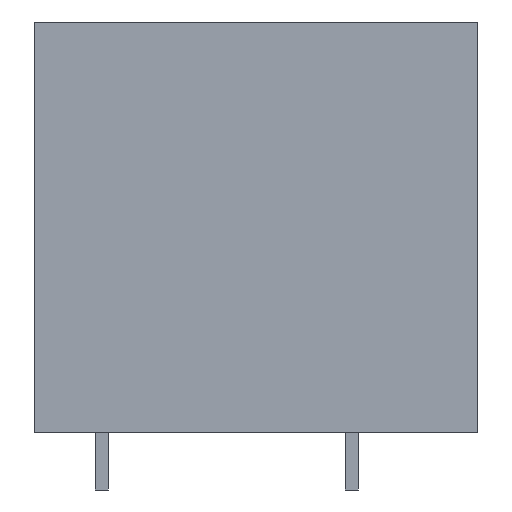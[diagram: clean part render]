
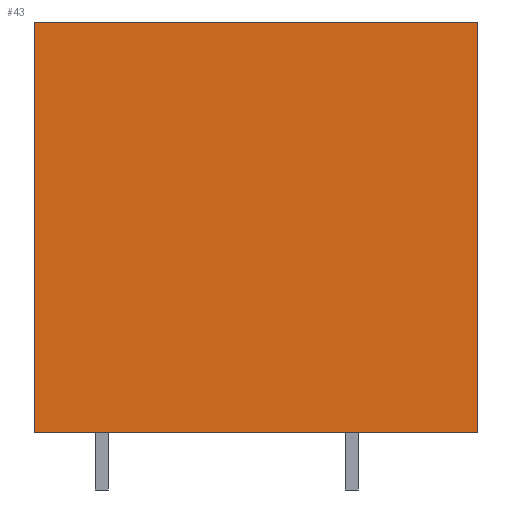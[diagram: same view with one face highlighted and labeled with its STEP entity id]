
A CAD part, left-side view. The second image highlights one B-rep face of the part: STEP entity #43.
In plain terms, the highlighted planar face has unit normal (-1, 0, 0).
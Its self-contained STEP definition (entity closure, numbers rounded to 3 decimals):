
#43 = ADVANCED_FACE('',(#44),#58,.F.);
#44 = FACE_BOUND('',#45,.F.);
#45 = EDGE_LOOP('',(#46,#81,#109,#137));
#46 = ORIENTED_EDGE('',*,*,#47,.F.);
#47 = EDGE_CURVE('',#48,#50,#52,.T.);
#48 = VERTEX_POINT('',#49);
#49 = CARTESIAN_POINT('',(-2.54,-22.9,0.));
#50 = VERTEX_POINT('',#51);
#51 = CARTESIAN_POINT('',(-2.54,-22.9,25.));
#52 = SURFACE_CURVE('',#53,(#57,#69),.PCURVE_S1.);
#53 = LINE('',#54,#55);
#54 = CARTESIAN_POINT('',(-2.54,-22.9,0.));
#55 = VECTOR('',#56,1.);
#56 = DIRECTION('',(0.,0.,1.));
#57 = PCURVE('',#58,#63);
#58 = PLANE('',#59);
#59 = AXIS2_PLACEMENT_3D('',#60,#61,#62);
#60 = CARTESIAN_POINT('',(-2.54,-22.9,0.));
#61 = DIRECTION('',(1.,0.,-0.));
#62 = DIRECTION('',(0.,0.,1.));
#63 = DEFINITIONAL_REPRESENTATION('',(#64),#68);
#64 = LINE('',#65,#66);
#65 = CARTESIAN_POINT('',(0.,0.));
#66 = VECTOR('',#67,1.);
#67 = DIRECTION('',(1.,0.));
#68 = ( GEOMETRIC_REPRESENTATION_CONTEXT(2) 
PARAMETRIC_REPRESENTATION_CONTEXT() REPRESENTATION_CONTEXT('2D SPACE',''
  ) );
#69 = PCURVE('',#70,#75);
#70 = PLANE('',#71);
#71 = AXIS2_PLACEMENT_3D('',#72,#73,#74);
#72 = CARTESIAN_POINT('',(-2.54,-22.9,0.));
#73 = DIRECTION('',(-0.,1.,0.));
#74 = DIRECTION('',(0.,0.,1.));
#75 = DEFINITIONAL_REPRESENTATION('',(#76),#80);
#76 = LINE('',#77,#78);
#77 = CARTESIAN_POINT('',(0.,0.));
#78 = VECTOR('',#79,1.);
#79 = DIRECTION('',(1.,0.));
#80 = ( GEOMETRIC_REPRESENTATION_CONTEXT(2) 
PARAMETRIC_REPRESENTATION_CONTEXT() REPRESENTATION_CONTEXT('2D SPACE',''
  ) );
#81 = ORIENTED_EDGE('',*,*,#82,.T.);
#82 = EDGE_CURVE('',#48,#83,#85,.T.);
#83 = VERTEX_POINT('',#84);
#84 = CARTESIAN_POINT('',(-2.54,4.1,0.));
#85 = SURFACE_CURVE('',#86,(#90,#97),.PCURVE_S1.);
#86 = LINE('',#87,#88);
#87 = CARTESIAN_POINT('',(-2.54,-22.9,0.));
#88 = VECTOR('',#89,1.);
#89 = DIRECTION('',(-0.,1.,0.));
#90 = PCURVE('',#58,#91);
#91 = DEFINITIONAL_REPRESENTATION('',(#92),#96);
#92 = LINE('',#93,#94);
#93 = CARTESIAN_POINT('',(0.,0.));
#94 = VECTOR('',#95,1.);
#95 = DIRECTION('',(0.,-1.));
#96 = ( GEOMETRIC_REPRESENTATION_CONTEXT(2) 
PARAMETRIC_REPRESENTATION_CONTEXT() REPRESENTATION_CONTEXT('2D SPACE',''
  ) );
#97 = PCURVE('',#98,#103);
#98 = PLANE('',#99);
#99 = AXIS2_PLACEMENT_3D('',#100,#101,#102);
#100 = CARTESIAN_POINT('',(-2.54,-22.9,0.));
#101 = DIRECTION('',(0.,0.,1.));
#102 = DIRECTION('',(1.,0.,-0.));
#103 = DEFINITIONAL_REPRESENTATION('',(#104),#108);
#104 = LINE('',#105,#106);
#105 = CARTESIAN_POINT('',(0.,0.));
#106 = VECTOR('',#107,1.);
#107 = DIRECTION('',(0.,1.));
#108 = ( GEOMETRIC_REPRESENTATION_CONTEXT(2) 
PARAMETRIC_REPRESENTATION_CONTEXT() REPRESENTATION_CONTEXT('2D SPACE',''
  ) );
#109 = ORIENTED_EDGE('',*,*,#110,.T.);
#110 = EDGE_CURVE('',#83,#111,#113,.T.);
#111 = VERTEX_POINT('',#112);
#112 = CARTESIAN_POINT('',(-2.54,4.1,25.));
#113 = SURFACE_CURVE('',#114,(#118,#125),.PCURVE_S1.);
#114 = LINE('',#115,#116);
#115 = CARTESIAN_POINT('',(-2.54,4.1,0.));
#116 = VECTOR('',#117,1.);
#117 = DIRECTION('',(0.,0.,1.));
#118 = PCURVE('',#58,#119);
#119 = DEFINITIONAL_REPRESENTATION('',(#120),#124);
#120 = LINE('',#121,#122);
#121 = CARTESIAN_POINT('',(0.,-27.));
#122 = VECTOR('',#123,1.);
#123 = DIRECTION('',(1.,0.));
#124 = ( GEOMETRIC_REPRESENTATION_CONTEXT(2) 
PARAMETRIC_REPRESENTATION_CONTEXT() REPRESENTATION_CONTEXT('2D SPACE',''
  ) );
#125 = PCURVE('',#126,#131);
#126 = PLANE('',#127);
#127 = AXIS2_PLACEMENT_3D('',#128,#129,#130);
#128 = CARTESIAN_POINT('',(-2.54,4.1,0.));
#129 = DIRECTION('',(-0.,1.,0.));
#130 = DIRECTION('',(0.,0.,1.));
#131 = DEFINITIONAL_REPRESENTATION('',(#132),#136);
#132 = LINE('',#133,#134);
#133 = CARTESIAN_POINT('',(0.,0.));
#134 = VECTOR('',#135,1.);
#135 = DIRECTION('',(1.,0.));
#136 = ( GEOMETRIC_REPRESENTATION_CONTEXT(2) 
PARAMETRIC_REPRESENTATION_CONTEXT() REPRESENTATION_CONTEXT('2D SPACE',''
  ) );
#137 = ORIENTED_EDGE('',*,*,#138,.F.);
#138 = EDGE_CURVE('',#50,#111,#139,.T.);
#139 = SURFACE_CURVE('',#140,(#144,#151),.PCURVE_S1.);
#140 = LINE('',#141,#142);
#141 = CARTESIAN_POINT('',(-2.54,-22.9,25.));
#142 = VECTOR('',#143,1.);
#143 = DIRECTION('',(-0.,1.,0.));
#144 = PCURVE('',#58,#145);
#145 = DEFINITIONAL_REPRESENTATION('',(#146),#150);
#146 = LINE('',#147,#148);
#147 = CARTESIAN_POINT('',(25.,0.));
#148 = VECTOR('',#149,1.);
#149 = DIRECTION('',(0.,-1.));
#150 = ( GEOMETRIC_REPRESENTATION_CONTEXT(2) 
PARAMETRIC_REPRESENTATION_CONTEXT() REPRESENTATION_CONTEXT('2D SPACE',''
  ) );
#151 = PCURVE('',#152,#157);
#152 = PLANE('',#153);
#153 = AXIS2_PLACEMENT_3D('',#154,#155,#156);
#154 = CARTESIAN_POINT('',(-2.54,-22.9,25.));
#155 = DIRECTION('',(0.,0.,1.));
#156 = DIRECTION('',(1.,0.,-0.));
#157 = DEFINITIONAL_REPRESENTATION('',(#158),#162);
#158 = LINE('',#159,#160);
#159 = CARTESIAN_POINT('',(0.,0.));
#160 = VECTOR('',#161,1.);
#161 = DIRECTION('',(0.,1.));
#162 = ( GEOMETRIC_REPRESENTATION_CONTEXT(2) 
PARAMETRIC_REPRESENTATION_CONTEXT() REPRESENTATION_CONTEXT('2D SPACE',''
  ) );
